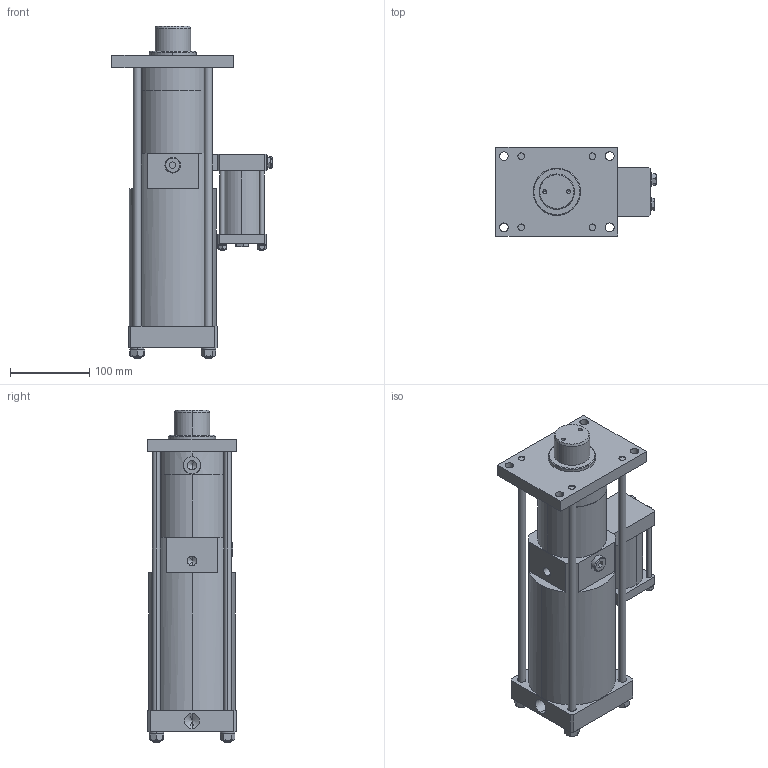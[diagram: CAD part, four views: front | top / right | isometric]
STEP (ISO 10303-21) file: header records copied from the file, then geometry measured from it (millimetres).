
FILE_DESCRIPTION (( 'STEP AP214' ), '1' );
FILE_NAME ('PCS4 10045 VC09.STEP', '2016-02-19T10:14:40', ( 'Admin' ), ( '' ), 'SwSTEP 2.0', 'SolidWorks 2015', '' );
FILE_SCHEMA (( 'AUTOMOTIVE_DESIGN' ));
Length unit declared in the file: millimetre
Products named in the file (8): hexagon nut style 1_is_IS 1364-3 - M10-W-N; spring lock washer 3063_is_IS 3063- 10-A; hexagon nut style 1_is_IS 1364-3 - M6-W-N; spring lock washer 3063_is_IS 3063- 6-A; hexagon fit bolt_is_IS 3640 - M8 x 25 x 14.5-N; plain washer (type a)_is_IS 2016 A- 9; PCS4 10045_PCS4 10045 VC09; PCS4 10045 VC09
Assembly tree (21 placements, depth 2):
  PCS4 10045 VC09
    PCS4 10045_PCS4 10045 VC09
    plain washer (type a)_is_IS 2016 A- 9  x2
    hexagon fit bolt_is_IS 3640 - M8 x 25 x 14.5-N  x2
    spring lock washer 3063_is_IS 3063- 6-A  x4
    hexagon nut style 1_is_IS 1364-3 - M6-W-N  x4
    spring lock washer 3063_is_IS 3063- 10-A  x4
    hexagon nut style 1_is_IS 1364-3 - M10-W-N  x4
Bounding box: 202.6 x 112 x 420 mm (x, y, z)
Volume: 3898719.8 mm3; surface area: 304971.2 mm2
Topology: 22 solids, 22 shells, 682 faces, 1631 edges, 1017 vertices
Faces by surface type: plane 288, cylinder 208, cone 138, bspline 48
Entity records: 10872 total; most frequent: CARTESIAN_POINT 2437, DIRECTION 1739, ORIENTED_EDGE 1614, EDGE_CURVE 807, AXIS2_PLACEMENT_3D 674, VERTEX_POINT 515, EDGE_LOOP 410, VECTOR 391
